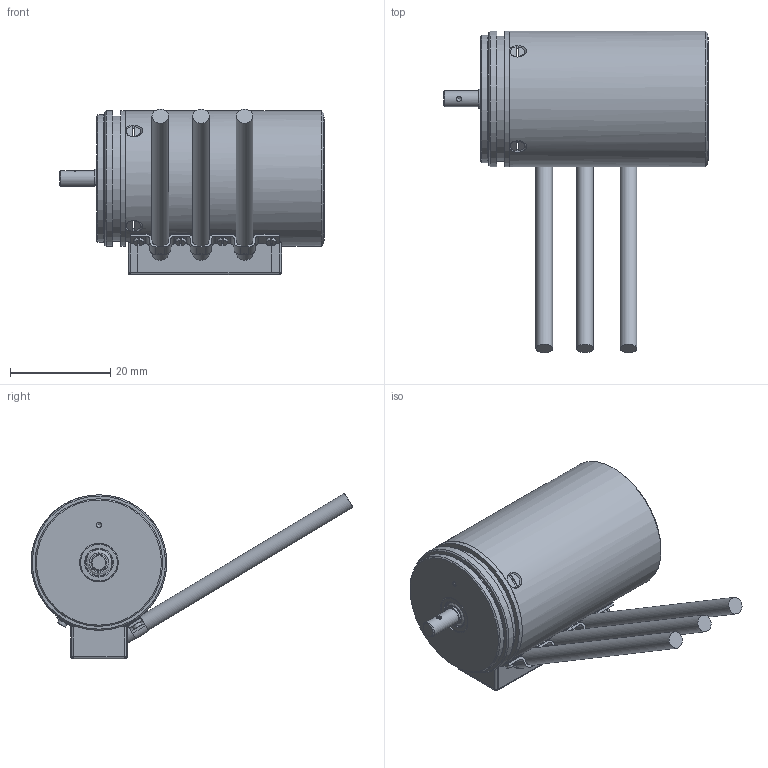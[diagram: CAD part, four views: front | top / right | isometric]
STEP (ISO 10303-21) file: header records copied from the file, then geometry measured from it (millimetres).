
FILE_DESCRIPTION(/* description */ ('Unknown'),/* implementation_level */ '2;1');
FILE_NAME(/* name */ 'P1514-1815',/* time_stamp */ '2025-07-22T14:10:52+02:00',/* author */ ('Unknown'),/* organization */ ('Unknown'),/* preprocessor_version */ 'ST-DEVELOPER v19.4',/* originating_system */ 'Solid Edge',/* authorisation */ 'Unknown');
FILE_SCHEMA (('AUTOMOTIVE_DESIGN {1 0 10303 214 3 1 1}'));
Length unit declared in the file: millimetre
Products named in the file (75): P1514-1815; P1514-1808-12_oa_0; 731257_oa_1; P1514-1808-29_oa_2; 731257_oa_3; P1514-1808-29_oa_4; P1514-1808-27_oa_5; 744040_oa_6; P1514-1815-01_oa_7; 744040_oa_8; 744043_oa_9; P1514-1808-04_oa_10; P1514-1808-29_oa_11; P1514-1808-23_oa_12; P1514-1808-23_oa_13; P1514-1808-32_oa_14; P1514-1808-14_oa_15; P1514-1815-02_oa_16; P1514-1808-37_oa_17; P1514-1815-03_oa_18; 652178_oa_19; 652178_oa_20; 652178_oa_21; P1514-1808-37_oa_22; P1514-1808-29_oa_23; P1514-1808-29_oa_24; P1514-1808-28_oa_25; P1514-1808-32_oa_26; P1514-1808-07_oa_27; P1514-1808-29_oa_28; P1514-1815-04_oa_29; 652178_oa_30; P1514-1815-06_oa_31; P1514-1808-29_oa_32; P1514-1808-07_oa_33; P1514-1808-29_oa_34; P1514-1815-05_oa_35; P1514-1808-30_oa_36; P1514-1808-29_oa_37; P1514-1808-24_oa_38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
Assembly tree (74 placements, depth 2):
  P1514-1815
    P1514-1808-12_oa_0
    731257_oa_1
    P1514-1808-29_oa_2
    731257_oa_3
    P1514-1808-29_oa_4
    P1514-1808-27_oa_5
    744040_oa_6
    P1514-1815-01_oa_7
    744040_oa_8
    744043_oa_9
    P1514-1808-04_oa_10
    P1514-1808-29_oa_11
    P1514-1808-23_oa_12
    P1514-1808-23_oa_13
    P1514-1808-32_oa_14
    P1514-1808-14_oa_15
    P1514-1815-02_oa_16
    P1514-1808-37_oa_17
    P1514-1815-03_oa_18
    652178_oa_19
    652178_oa_20
    652178_oa_21
    P1514-1808-37_oa_22
    P1514-1808-29_oa_23
    P1514-1808-29_oa_24
    P1514-1808-28_oa_25
    P1514-1808-32_oa_26
    P1514-1808-07_oa_27
    P1514-1808-29_oa_28
    P1514-1815-04_oa_29
    652178_oa_30
    P1514-1815-06_oa_31
    P1514-1808-29_oa_32
    P1514-1808-07_oa_33
    P1514-1808-29_oa_34
    P1514-1815-05_oa_35
    P1514-1808-30_oa_36
    P1514-1808-29_oa_37
    P1514-1808-24_oa_38
    P1514-1808-14_oa_39
    P1514-1808-29_oa_40
    P1514-1808-29_oa_41
    662708_oa_42
    P1514-1808-29_oa_43
    652178_oa_44
    P1514-1815-07_oa_45
    P1514-1808-44_oa_46
    731395_oa_47
    P1514-1808-24_oa_48
    P1514-1808-32_oa_49
    P1514-1808-07_oa_50
    P1514-1808-23_oa_51
    P1514-1808-30_oa_52
    660002_oa_53
    P1514-1808-29_oa_54
    P1514-1808-29_oa_55
    P1514-1808-29_oa_56
    P1514-1808-29_oa_57
    P1514-1808-29_oa_58
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Bounding box: 52.65 x 64.06 x 32.96 mm (x, y, z)
Volume: 4265.2 mm3; surface area: 14936.6 mm2
Topology: 36 solids, 36 shells, 946 faces, 2381 edges, 1581 vertices
Faces by surface type: plane 602, cylinder 205, bspline 115, cone 20, torus 4
Full cylindrical faces by diameter (mm): 0.729 x8, 1 x10, 1.2 x1, 1.3 x16, 2 x8, 2.5 x1, 3.175 x3, 3.3 x3, 3.5 x3, 3.775 x1, 3.823 x1, 4.162 x1, 5.354 x1, 5.362 x1, 5.75 x2, 6.35 x2, 7.518 x1, 7.7 x1, 24 x1, 24.5 x1, 24.9 x1, 25 x1, 25.1 x1, 25.4 x1, 26 x1, 27 x3
Entity records: 37179 total; most frequent: CARTESIAN_POINT 9979, ORIENTED_EDGE 4510, DIRECTION 4107, EDGE_CURVE 2255, VERTEX_POINT 1550, LINE 1515, VECTOR 1515, AXIS2_PLACEMENT_3D 1296
